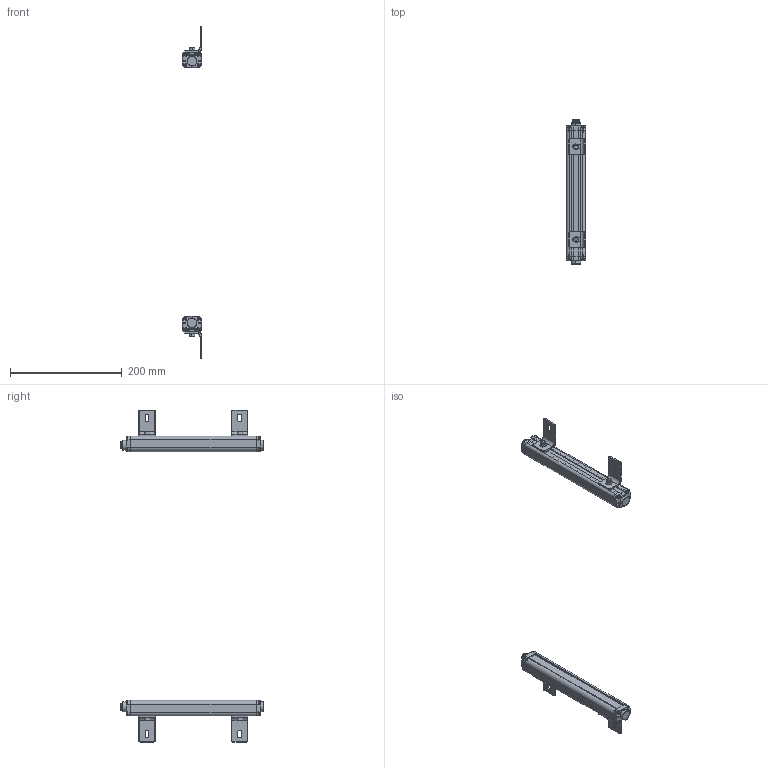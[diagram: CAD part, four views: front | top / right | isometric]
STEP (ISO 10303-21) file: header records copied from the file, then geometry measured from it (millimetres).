
FILE_DESCRIPTION (( 'STEP AP214' ), '1' );
FILE_NAME ('elg1020.STEP', '2018-03-08T11:49:07', ( '' ), ( '' ), 'SwSTEP 2.0', 'SolidWorks 2017', '' );
FILE_SCHEMA (( 'AUTOMOTIVE_DESIGN' ));
Length unit declared in the file: millimetre
Products named in the file (11): elg1020; elgdg03-1020; hk-1020; glgdg-1020; dlx-1020; lx-1020; lgp-1020; czzj-1020; elgw-1020; hkct1-1020; bz1-1020
Assembly tree (40 placements, depth 2):
  elg1020
    elgw-1020  x2
    bz1-1020  x2
    lgp-1020  x2
    glgdg-1020  x2
    elgdg03-1020  x2
    hkct1-1020  x2
    lx-1020  x16
    hk-1020  x4
    czzj-1020  x4
    dlx-1020  x4
Bounding box: 34.7 x 257.6 x 594 mm (x, y, z)
Volume: 207057.4 mm3; surface area: 207215.1 mm2
Topology: 40 solids, 40 shells, 2080 faces, 5456 edges, 3496 vertices
Faces by surface type: cylinder 992, plane 688, bspline 400
Entity records: 141905 total; most frequent: CARTESIAN_POINT 127778, ORIENTED_EDGE 2996, DIRECTION 2630, EDGE_CURVE 1498, VERTEX_POINT 964, AXIS2_PLACEMENT_3D 941, VECTOR 748, LINE 748
